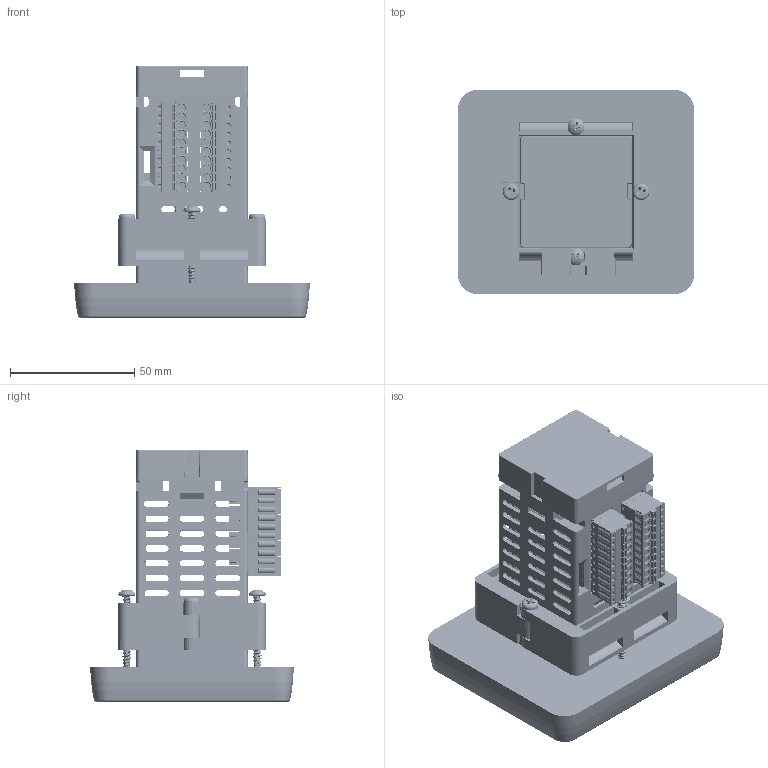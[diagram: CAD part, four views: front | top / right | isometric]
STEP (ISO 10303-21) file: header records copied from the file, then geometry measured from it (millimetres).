
FILE_DESCRIPTION (( 'STEP AP214' ), '1' );
FILE_NAME ('3.5 PM50 (GPM).STEP', '2021-02-05T12:53:57', ( '' ), ( '' ), 'SwSTEP 2.0', 'SolidWorks 2019', '' );
FILE_SCHEMA (( 'AUTOMOTIVE_DESIGN' ));
Length unit declared in the file: millimetre
Products named in the file (11): 3.5 PM50 (GPM); 11598; HWSMEP24; 11434; 11088; 11094; 11484_90380A158; 11435; 11082; 11086; 11084
Assembly tree (13 placements, depth 2):
  3.5 PM50 (GPM)
    11084
    11082
    11086
    11088  x2
    11094
    11484_90380A158  x2
    HWSMEP24  x2
    11435
    11434
    11598
Bounding box: 95.09 x 82.09 x 101.42 mm (x, y, z)
Volume: 47326.8 mm3; surface area: 131122.2 mm2
Topology: 12 solids, 13 shells, 7760 faces, 19325 edges, 11194 vertices
Faces by surface type: plane 2737, cylinder 2714, bspline 1487, cone 450, sphere 324, torus 48
Entity records: 238873 total; most frequent: CARTESIAN_POINT 80507, ORIENTED_EDGE 35504, DIRECTION 30015, EDGE_CURVE 17752, VERTEX_POINT 10532, AXIS2_PLACEMENT_3D 10195, VECTOR 9625, LINE 9625
